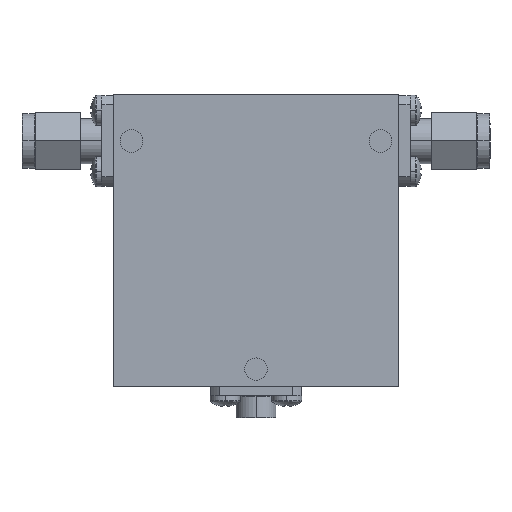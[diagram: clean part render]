
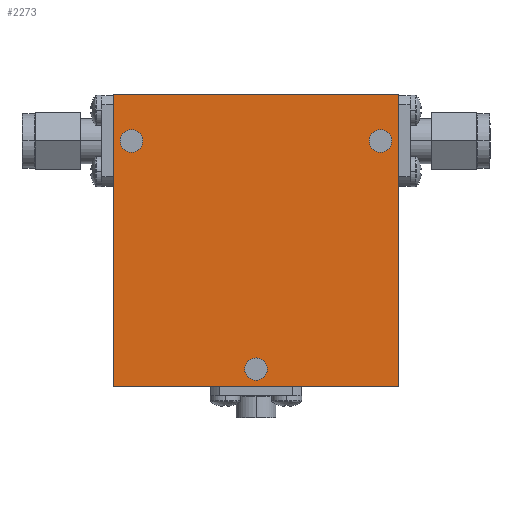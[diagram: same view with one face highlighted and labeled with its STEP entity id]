
A CAD part, top view. The second image highlights one B-rep face of the part: STEP entity #2273.
In plain terms, the highlighted planar face has unit normal (0, 0, 1) as drawn and (0, 0, -1) by its records, which use the part's own axes.
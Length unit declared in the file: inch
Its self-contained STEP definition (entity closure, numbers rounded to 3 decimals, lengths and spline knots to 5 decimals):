
#36 = EDGE_CURVE ( 'NONE', #4328, #1148, #4033, .T. ) ;
#47 = AXIS2_PLACEMENT_3D ( 'NONE', #3308, #255, #4311 ) ;
#53 = EDGE_CURVE ( 'NONE', #2417, #3193, #1339, .T. ) ;
#123 = FACE_BOUND ( 'NONE', #2753, .T. ) ;
#132 = CARTESIAN_POINT ( 'NONE',  ( 0., -0.715, -0.365 ) ) ;
#171 = CARTESIAN_POINT ( 'NONE',  ( 0.69, 0.55, -0.365 ) ) ;
#213 = AXIS2_PLACEMENT_3D ( 'NONE', #4205, #3847, #3189 ) ;
#221 = DIRECTION ( 'NONE',  ( 1., 0., 0. ) ) ;
#255 = DIRECTION ( 'NONE',  ( 0., 0., 1. ) ) ;
#393 = CARTESIAN_POINT ( 'NONE',  ( -0.6275, 0.55, -0.365 ) ) ;
#397 = ORIENTED_EDGE ( 'NONE', *, *, #3555, .T. ) ;
#425 = PLANE ( 'NONE',  #1731 ) ;
#469 = CARTESIAN_POINT ( 'NONE',  ( 0.79, 0.81, -0.365 ) ) ;
#622 = ORIENTED_EDGE ( 'NONE', *, *, #53, .F. ) ;
#754 = FACE_BOUND ( 'NONE', #2283, .T. ) ;
#848 = EDGE_CURVE ( 'NONE', #1188, #2768, #2141, .T. ) ;
#980 = DIRECTION ( 'NONE',  ( 0., -1., 0. ) ) ;
#1061 = CARTESIAN_POINT ( 'NONE',  ( -0.7525, 0.55, -0.365 ) ) ;
#1137 = ORIENTED_EDGE ( 'NONE', *, *, #36, .F. ) ;
#1148 = VERTEX_POINT ( 'NONE', #2331 ) ;
#1151 = DIRECTION ( 'NONE',  ( 0., 0., 1. ) ) ;
#1180 = CARTESIAN_POINT ( 'NONE',  ( -0.69, 0.55, -0.365 ) ) ;
#1188 = VERTEX_POINT ( 'NONE', #3028 ) ;
#1241 = DIRECTION ( 'NONE',  ( 0., 1., 0. ) ) ;
#1277 = CIRCLE ( 'NONE', #2939, 0.0625 ) ;
#1339 = LINE ( 'NONE', #2032, #2135 ) ;
#1461 = AXIS2_PLACEMENT_3D ( 'NONE', #4130, #1151, #1468 ) ;
#1463 = ORIENTED_EDGE ( 'NONE', *, *, #4215, .F. ) ;
#1468 = DIRECTION ( 'NONE',  ( 1., 0., 0. ) ) ;
#1482 = DIRECTION ( 'NONE',  ( 0., 0., 1. ) ) ;
#1486 = ORIENTED_EDGE ( 'NONE', *, *, #3159, .T. ) ;
#1504 = VERTEX_POINT ( 'NONE', #1061 ) ;
#1519 = DIRECTION ( 'NONE',  ( 0., 0., 1. ) ) ;
#1538 = VERTEX_POINT ( 'NONE', #393 ) ;
#1551 = EDGE_LOOP ( 'NONE', ( #3185, #397 ) ) ;
#1610 = ORIENTED_EDGE ( 'NONE', *, *, #2386, .T. ) ;
#1730 = ORIENTED_EDGE ( 'NONE', *, *, #2064, .F. ) ;
#1731 = AXIS2_PLACEMENT_3D ( 'NONE', #4144, #1482, #3208 ) ;
#1812 = EDGE_CURVE ( 'NONE', #4236, #2221, #2457, .T. ) ;
#1834 = CIRCLE ( 'NONE', #1461, 0.0625 ) ;
#1837 = DIRECTION ( 'NONE',  ( 0., 0., 1. ) ) ;
#2032 = CARTESIAN_POINT ( 'NONE',  ( -0.79, 0.81, -0.365 ) ) ;
#2052 = AXIS2_PLACEMENT_3D ( 'NONE', #171, #1519, #221 ) ;
#2064 = EDGE_CURVE ( 'NONE', #3193, #4328, #3749, .T. ) ;
#2068 = CARTESIAN_POINT ( 'NONE',  ( 0.6275, 0.55, -0.365 ) ) ;
#2093 = LINE ( 'NONE', #4167, #3825 ) ;
#2125 = FACE_OUTER_BOUND ( 'NONE', #3238, .T. ) ;
#2135 = VECTOR ( 'NONE', #2339, 39.37008 ) ;
#2141 = CIRCLE ( 'NONE', #213, 0.0625 ) ;
#2221 = VERTEX_POINT ( 'NONE', #2068 ) ;
#2239 = ORIENTED_EDGE ( 'NONE', *, *, #848, .T. ) ;
#2273 = ADVANCED_FACE ( 'NONE', ( #3077, #123, #754, #2125 ), #425, .F. ) ;
#2283 = EDGE_LOOP ( 'NONE', ( #1486, #1610 ) ) ;
#2331 = CARTESIAN_POINT ( 'NONE',  ( 0.79, -0.81, -0.365 ) ) ;
#2339 = DIRECTION ( 'NONE',  ( -1., 0., 0. ) ) ;
#2386 = EDGE_CURVE ( 'NONE', #1504, #1538, #1277, .T. ) ;
#2387 = AXIS2_PLACEMENT_3D ( 'NONE', #132, #1837, #3181 ) ;
#2417 = VERTEX_POINT ( 'NONE', #469 ) ;
#2457 = CIRCLE ( 'NONE', #2052, 0.0625 ) ;
#2559 = VECTOR ( 'NONE', #980, 39.37008 ) ;
#2640 = CARTESIAN_POINT ( 'NONE',  ( -0.79, -0.81, -0.365 ) ) ;
#2692 = DIRECTION ( 'NONE',  ( 1., 0., 0. ) ) ;
#2703 = CARTESIAN_POINT ( 'NONE',  ( -0.79, -0.81, -0.365 ) ) ;
#2753 = EDGE_LOOP ( 'NONE', ( #4201, #2239 ) ) ;
#2768 = VERTEX_POINT ( 'NONE', #3734 ) ;
#2814 = DIRECTION ( 'NONE',  ( 1., 0., 0. ) ) ;
#2939 = AXIS2_PLACEMENT_3D ( 'NONE', #1180, #4222, #2814 ) ;
#3028 = CARTESIAN_POINT ( 'NONE',  ( -0.0625, -0.715, -0.365 ) ) ;
#3077 = FACE_BOUND ( 'NONE', #1551, .T. ) ;
#3137 = VECTOR ( 'NONE', #2692, 39.37008 ) ;
#3159 = EDGE_CURVE ( 'NONE', #1538, #1504, #4342, .T. ) ;
#3181 = DIRECTION ( 'NONE',  ( 1., 0., 0. ) ) ;
#3185 = ORIENTED_EDGE ( 'NONE', *, *, #1812, .T. ) ;
#3189 = DIRECTION ( 'NONE',  ( 1., 0., 0. ) ) ;
#3193 = VERTEX_POINT ( 'NONE', #3634 ) ;
#3208 = DIRECTION ( 'NONE',  ( 1., 0., 0. ) ) ;
#3238 = EDGE_LOOP ( 'NONE', ( #1463, #1137, #1730, #622 ) ) ;
#3271 = CIRCLE ( 'NONE', #2387, 0.0625 ) ;
#3308 = CARTESIAN_POINT ( 'NONE',  ( -0.69, 0.55, -0.365 ) ) ;
#3496 = EDGE_CURVE ( 'NONE', #2768, #1188, #3271, .T. ) ;
#3555 = EDGE_CURVE ( 'NONE', #2221, #4236, #1834, .T. ) ;
#3634 = CARTESIAN_POINT ( 'NONE',  ( -0.79, 0.81, -0.365 ) ) ;
#3714 = CARTESIAN_POINT ( 'NONE',  ( -0.79, 0.81, -0.365 ) ) ;
#3734 = CARTESIAN_POINT ( 'NONE',  ( 0.0625, -0.715, -0.365 ) ) ;
#3749 = LINE ( 'NONE', #3714, #2559 ) ;
#3825 = VECTOR ( 'NONE', #1241, 39.37008 ) ;
#3847 = DIRECTION ( 'NONE',  ( 0., 0., 1. ) ) ;
#4033 = LINE ( 'NONE', #2703, #3137 ) ;
#4130 = CARTESIAN_POINT ( 'NONE',  ( 0.69, 0.55, -0.365 ) ) ;
#4144 = CARTESIAN_POINT ( 'NONE',  ( 0., 0., -0.365 ) ) ;
#4156 = CARTESIAN_POINT ( 'NONE',  ( 0.7525, 0.55, -0.365 ) ) ;
#4167 = CARTESIAN_POINT ( 'NONE',  ( 0.79, 0.81, -0.365 ) ) ;
#4201 = ORIENTED_EDGE ( 'NONE', *, *, #3496, .T. ) ;
#4205 = CARTESIAN_POINT ( 'NONE',  ( 0., -0.715, -0.365 ) ) ;
#4215 = EDGE_CURVE ( 'NONE', #1148, #2417, #2093, .T. ) ;
#4222 = DIRECTION ( 'NONE',  ( 0., 0., 1. ) ) ;
#4236 = VERTEX_POINT ( 'NONE', #4156 ) ;
#4311 = DIRECTION ( 'NONE',  ( 1., 0., 0. ) ) ;
#4328 = VERTEX_POINT ( 'NONE', #2640 ) ;
#4342 = CIRCLE ( 'NONE', #47, 0.0625 ) ;
